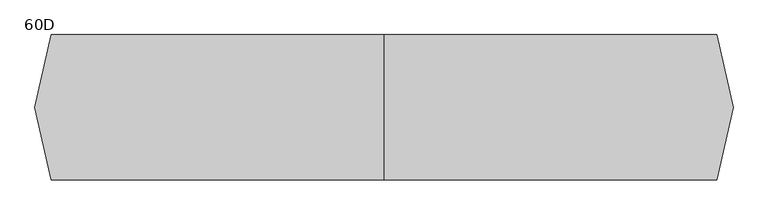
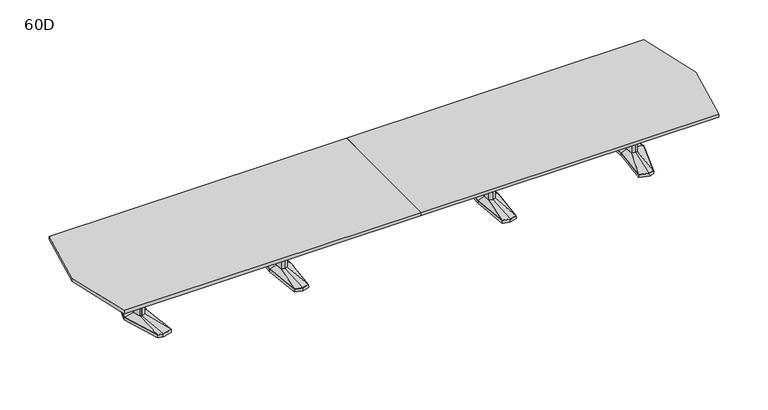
"""IFC4 building model written with IfcOpenShell, lengths in millimetres: furniture geometry, Coalesse_AM_Table_Conference_ETable2_Faceted_24ft_AluminiumBase : 60D."""

from ifc_helpers import new_model, si_unit, frame, origin, place, context, project, spatial, polyline, outline, extrude, faceted_brep, source, transform, mapped, element, save
from ifc_brep_helpers import plane_surface, spline_surface, advanced_brep


def furniture_60d_6ced5be0(model_context):
    return source(origin(), model_context, "Body", "SolidModel", [
        faceted_brep([(1137.9666209, -433.8053819, 38.1), (1219.2, -455.556576, 38.1), (1300.4333791, -433.8053819, 38.1), (1338.2564774, 0.0, 38.1), (1300.4333791, 433.8053819, 38.1), (1219.2, 455.556576, 38.1), (1137.9666209, 433.8053819, 38.1), (1100.1435226, 0.0, 38.1), (1136.4817205, -435.0512063, 3.175), (1098.55, 0.0, 3.175), (1136.4817205, 435.0512063, 3.175), (1219.2, 457.2, 3.175), (1301.9182795, 435.0512063, 3.175), (1339.85, 0.0, 3.175), (1301.9182795, -435.0512063, 3.175), (1219.2, -457.2, 3.175), (1219.2, 429.2617927, 3.175), (1141.2323194, 408.3850278, 3.175), (1144.4980179, 382.9646737, 3.175), (1219.2, 402.9670094, 3.175), (1293.9019821, 382.9646737, 3.175), (1297.1676806, 408.3850278, 3.175), (1219.2, -429.2617927, 3.175), (1297.1676806, -408.3850278, 3.175), (1293.9019821, -382.9646737, 3.175), (1219.2, -402.9670094, 3.175), (1144.4980179, -382.9646737, 3.175), (1141.2323194, -408.3850278, 3.175), (1147.3425738, 114.6326257, 3.175), (1136.6573924, 0.0, 3.175), (1147.3425738, -114.6326257, 3.175), (1219.2, -133.8761372, 3.175), (1291.0574262, -114.6326257, 3.175), (1301.7426076, 0.0, 3.175), (1291.0574262, 114.6326257, 3.175), (1219.2, 133.8761372, 3.175), (1219.2, 429.2617927, 0.0), (1297.1676806, 408.3850278, 0.0), (1293.9019821, 382.9646737, 0.0), (1219.2, 402.9670094, 0.0), (1144.4980179, 382.9646737, 0.0), (1141.2323194, 408.3850278, 0.0), (1219.2, -429.2617927, 0.0), (1141.2323194, -408.3850278, 0.0), (1144.4980179, -382.9646737, 0.0), (1219.2, -402.9670094, 0.0), (1293.9019821, -382.9646737, 0.0), (1297.1676806, -408.3850278, 0.0), (1147.3425738, 114.6326257, 0.0), (1219.2, 133.8761372, 0.0), (1291.0574262, 114.6326257, 0.0), (1301.7426076, 0.0, 0.0), (1291.0574262, -114.6326257, 0.0), (1219.2, -133.8761372, 0.0), (1147.3425738, -114.6326257, 0.0), (1136.6573924, 0.0, 0.0)], [[[0, 1, 2, 3, 4, 5, 6, 7]], [[8, 9, 10, 11, 12, 13, 14, 15], [16, 17, 18, 19, 20, 21], [22, 23, 24, 25, 26, 27], [28, 29, 30, 31, 32, 33, 34, 35]], [[1, 0, 8, 15]], [[2, 1, 15, 14]], [[3, 2, 14, 13]], [[4, 3, 13, 12]], [[5, 4, 12, 11]], [[6, 5, 11, 10]], [[7, 6, 10, 9]], [[0, 7, 9, 8]], [[36, 37, 38, 39, 40, 41]], [[42, 43, 44, 45, 46, 47]], [[48, 49, 50, 51, 52, 53, 54, 55]], [[36, 41, 17, 16]], [[41, 40, 18, 17]], [[40, 39, 19, 18]], [[39, 38, 20, 19]], [[38, 37, 21, 20]], [[37, 36, 16, 21]], [[42, 47, 23, 22]], [[47, 46, 24, 23]], [[46, 45, 25, 24]], [[45, 44, 26, 25]], [[44, 43, 27, 26]], [[43, 42, 22, 27]], [[48, 55, 29, 28]], [[55, 54, 30, 29]], [[54, 53, 31, 30]], [[53, 52, 32, 31]], [[52, 51, 33, 32]], [[51, 50, 34, 33]], [[50, 49, 35, 34]], [[49, 48, 28, 35]]]),
        faceted_brep([(1182.8167166, 84.6900825, 698.5), (1174.9225513, 0.0, 698.5), (1182.8167166, -84.6900825, 698.5), (1219.2, -94.4335728, 698.5), (1255.5832834, -84.6900825, 698.5), (1263.4774487, 0.0, 698.5), (1255.5832834, 84.6900825, 698.5), (1219.2, 94.4335728, 698.5), (1182.8167166, 84.6900825, 63.5), (1219.2, 94.4335728, 63.5), (1255.5832834, 84.6900825, 63.5), (1263.4774487, 0.0, 63.5), (1255.5832834, -84.6900825, 63.5), (1219.2, -94.4335728, 63.5), (1182.8167166, -84.6900825, 63.5), (1174.9225513, 0.0, 63.5)], [[[0, 1, 2, 3, 4, 5, 6, 7]], [[8, 9, 10, 11, 12, 13, 14, 15]], [[1, 0, 8, 15]], [[2, 1, 15, 14]], [[3, 2, 14, 13]], [[4, 3, 13, 12]], [[5, 4, 12, 11]], [[6, 5, 11, 10]], [[7, 6, 10, 9]], [[0, 7, 9, 8]]]),
        advanced_brep(
        [(1182.8167166, 84.6900825, 63.5), (1174.9225513, 0.0, 63.5), (1182.8167166, -84.6900825, 63.5), (1219.2, -94.4335728, 63.5), (1255.5832834, -84.6900825, 63.5), (1263.4774487, 0.0, 63.5), (1255.5832834, 84.6900825, 63.5), (1219.2, 94.4335728, 63.5), (1137.9666209, 433.8053819, 38.1), (1219.2, 455.556576, 38.1), (1300.4333791, 433.8053819, 38.1), (1338.2564774, 0.0, 38.1), (1300.4333791, -433.8053819, 38.1), (1219.2, -455.556576, 38.1), (1137.9666209, -433.8053819, 38.1), (1100.1435226, 0.0, 38.1)],
        [
            (0, 1),
            (1, 2),
            (2, 3),
            (3, 4),
            (4, 5),
            (5, 6),
            (6, 7),
            (7, 0),
            (8, 9),
            (9, 10),
            (10, 11),
            (11, 12),
            (12, 13),
            (13, 14),
            (14, 15),
            (15, 8),
            (15, 1),
            (0, 8),
            (14, 2),
            (13, 3),
            (12, 4),
            (11, 5),
            (10, 6),
            (9, 7),
        ],
        [
            plane_surface(frame((1219.2, 0.0, 63.5), z_axis=(0.0, 0.0, 1.0000000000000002), x_axis=(-0.9659615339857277, -0.25868574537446, 0.0))),
            plane_surface(frame((1219.2, 0.0, 38.1), z_axis=(0.0, 0.0, -1.0000000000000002), x_axis=(-0.9659615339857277, -0.25868574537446, 0.0))),
            spline_surface(1, 1, [[(1137.9666209, 433.8053819, 38.1), (1182.8167166, 84.6900825, 63.5)], [(1100.1435226, 0.0, 38.1), (1174.9225513, 0.0, 63.5)]], [2, 2], [2, 2], [0.0, 1.0], [0.0, 1.0]),
            spline_surface(1, 1, [[(1100.1435226, 0.0, 38.1), (1174.9225513, 0.0, 63.5)], [(1137.9666209, -433.8053819, 38.1), (1182.8167166, -84.6900825, 63.5)]], [2, 2], [2, 2], [0.0, 1.0], [0.0, 1.0]),
            spline_surface(1, 1, [[(1137.9666209, -433.8053819, 38.1), (1182.8167166, -84.6900825, 63.5)], [(1219.2, -455.556576, 38.1), (1219.2, -94.4335728, 63.5)]], [2, 2], [2, 2], [0.0, 1.0], [0.0, 1.0]),
            spline_surface(1, 1, [[(1219.2, -455.556576, 38.1), (1219.2, -94.4335728, 63.5)], [(1300.4333791, -433.8053819, 38.1), (1255.5832834, -84.6900825, 63.5)]], [2, 2], [2, 2], [0.0, 1.0], [0.0, 1.0]),
            spline_surface(1, 1, [[(1300.4333791, -433.8053819, 38.1), (1255.5832834, -84.6900825, 63.5)], [(1338.2564774, 0.0, 38.1), (1263.4774487, 0.0, 63.5)]], [2, 2], [2, 2], [0.0, 1.0], [0.0, 1.0]),
            spline_surface(1, 1, [[(1338.2564774, 0.0, 38.1), (1263.4774487, 0.0, 63.5)], [(1300.4333791, 433.8053819, 38.1), (1255.5832834, 84.6900825, 63.5)]], [2, 2], [2, 2], [0.0, 1.0], [0.0, 1.0]),
            spline_surface(1, 1, [[(1300.4333791, 433.8053819, 38.1), (1255.5832834, 84.6900825, 63.5)], [(1219.2, 455.556576, 38.1), (1219.2, 94.4335728, 63.5)]], [2, 2], [2, 2], [0.0, 1.0], [0.0, 1.0]),
            spline_surface(1, 1, [[(1219.2, 455.556576, 38.1), (1219.2, 94.4335728, 63.5)], [(1137.9666209, 433.8053819, 38.1), (1182.8167166, 84.6900825, 63.5)]], [2, 2], [2, 2], [0.0, 1.0], [0.0, 1.0]),
        ],
        [
            (0, [[1, 2, 3, 4, 5, 6, 7, 8]]),
            (1, [[9, 10, 11, 12, 13, 14, 15, 16]]),
            (2, [[-16, 17, -1, 18]]),
            (3, [[-15, 19, -2, -17]]),
            (4, [[-14, 20, -3, -19]]),
            (5, [[-13, 21, -4, -20]]),
            (6, [[-12, 22, -5, -21]]),
            (7, [[-11, 23, -6, -22]]),
            (8, [[-10, 24, -7, -23]]),
            (9, [[-9, -18, -8, -24]]),
        ],
    ),
        faceted_brep([(-1300.4333791, -433.8053819, 38.1), (-1219.2, -455.556576, 38.1), (-1137.9666209, -433.8053819, 38.1), (-1100.1435226, 0.0, 38.1), (-1137.9666209, 433.8053819, 38.1), (-1219.2, 455.556576, 38.1), (-1300.4333791, 433.8053819, 38.1), (-1338.2564774, 0.0, 38.1), (-1301.9182795, -435.0512063, 3.175), (-1339.85, 0.0, 3.175), (-1301.9182795, 435.0512063, 3.175), (-1219.2, 457.2, 3.175), (-1136.4817205, 435.0512063, 3.175), (-1098.55, 0.0, 3.175), (-1136.4817205, -435.0512063, 3.175), (-1219.2, -457.2, 3.175), (-1219.2, 429.2617927, 3.175), (-1297.1676806, 408.3850278, 3.175), (-1293.9019821, 382.9646737, 3.175), (-1219.2, 402.9670094, 3.175), (-1144.4980179, 382.9646737, 3.175), (-1141.2323194, 408.3850278, 3.175), (-1219.2, -429.2617927, 3.175), (-1141.2323194, -408.3850278, 3.175), (-1144.4980179, -382.9646737, 3.175), (-1219.2, -402.9670094, 3.175), (-1293.9019821, -382.9646737, 3.175), (-1297.1676806, -408.3850278, 3.175), (-1291.0574262, 114.6326257, 3.175), (-1301.7426076, 0.0, 3.175), (-1291.0574262, -114.6326257, 3.175), (-1219.2, -133.8761372, 3.175), (-1147.3425738, -114.6326257, 3.175), (-1136.6573924, 0.0, 3.175), (-1147.3425738, 114.6326257, 3.175), (-1219.2, 133.8761372, 3.175), (-1219.2, 429.2617927, 0.0), (-1141.2323194, 408.3850278, 0.0), (-1144.4980179, 382.9646737, 0.0), (-1219.2, 402.9670094, 0.0), (-1293.9019821, 382.9646737, 0.0), (-1297.1676806, 408.3850278, 0.0), (-1219.2, -429.2617927, 0.0), (-1297.1676806, -408.3850278, 0.0), (-1293.9019821, -382.9646737, 0.0), (-1219.2, -402.9670094, 0.0), (-1144.4980179, -382.9646737, 0.0), (-1141.2323194, -408.3850278, 0.0), (-1291.0574262, 114.6326257, 0.0), (-1219.2, 133.8761372, 0.0), (-1147.3425738, 114.6326257, 0.0), (-1136.6573924, 0.0, 0.0), (-1147.3425738, -114.6326257, 0.0), (-1219.2, -133.8761372, 0.0), (-1291.0574262, -114.6326257, 0.0), (-1301.7426076, 0.0, 0.0)], [[[0, 1, 2, 3, 4, 5, 6, 7]], [[8, 9, 10, 11, 12, 13, 14, 15], [16, 17, 18, 19, 20, 21], [22, 23, 24, 25, 26, 27], [28, 29, 30, 31, 32, 33, 34, 35]], [[1, 0, 8, 15]], [[2, 1, 15, 14]], [[3, 2, 14, 13]], [[4, 3, 13, 12]], [[5, 4, 12, 11]], [[6, 5, 11, 10]], [[7, 6, 10, 9]], [[0, 7, 9, 8]], [[36, 37, 38, 39, 40, 41]], [[42, 43, 44, 45, 46, 47]], [[48, 49, 50, 51, 52, 53, 54, 55]], [[36, 41, 17, 16]], [[41, 40, 18, 17]], [[40, 39, 19, 18]], [[39, 38, 20, 19]], [[38, 37, 21, 20]], [[37, 36, 16, 21]], [[42, 47, 23, 22]], [[47, 46, 24, 23]], [[46, 45, 25, 24]], [[45, 44, 26, 25]], [[44, 43, 27, 26]], [[43, 42, 22, 27]], [[48, 55, 29, 28]], [[55, 54, 30, 29]], [[54, 53, 31, 30]], [[53, 52, 32, 31]], [[52, 51, 33, 32]], [[51, 50, 34, 33]], [[50, 49, 35, 34]], [[49, 48, 28, 35]]]),
        faceted_brep([(-1255.5832834, 84.6900825, 698.5), (-1263.4774487, 0.0, 698.5), (-1255.5832834, -84.6900825, 698.5), (-1219.2, -94.4335728, 698.5), (-1182.8167166, -84.6900825, 698.5), (-1174.9225513, 0.0, 698.5), (-1182.8167166, 84.6900825, 698.5), (-1219.2, 94.4335728, 698.5), (-1255.5832834, 84.6900825, 63.5), (-1219.2, 94.4335728, 63.5), (-1182.8167166, 84.6900825, 63.5), (-1174.9225513, 0.0, 63.5), (-1182.8167166, -84.6900825, 63.5), (-1219.2, -94.4335728, 63.5), (-1255.5832834, -84.6900825, 63.5), (-1263.4774487, 0.0, 63.5)], [[[0, 1, 2, 3, 4, 5, 6, 7]], [[8, 9, 10, 11, 12, 13, 14, 15]], [[1, 0, 8, 15]], [[2, 1, 15, 14]], [[3, 2, 14, 13]], [[4, 3, 13, 12]], [[5, 4, 12, 11]], [[6, 5, 11, 10]], [[7, 6, 10, 9]], [[0, 7, 9, 8]]]),
        advanced_brep(
        [(-1255.5832834, 84.6900825, 63.5), (-1263.4774487, 0.0, 63.5), (-1255.5832834, -84.6900825, 63.5), (-1219.2, -94.4335728, 63.5), (-1182.8167166, -84.6900825, 63.5), (-1174.9225513, 0.0, 63.5), (-1182.8167166, 84.6900825, 63.5), (-1219.2, 94.4335728, 63.5), (-1300.4333791, 433.8053819, 38.1), (-1219.2, 455.556576, 38.1), (-1137.9666209, 433.8053819, 38.1), (-1100.1435226, 0.0, 38.1), (-1137.9666209, -433.8053819, 38.1), (-1219.2, -455.556576, 38.1), (-1300.4333791, -433.8053819, 38.1), (-1338.2564774, 0.0, 38.1)],
        [
            (0, 1),
            (1, 2),
            (2, 3),
            (3, 4),
            (4, 5),
            (5, 6),
            (6, 7),
            (7, 0),
            (8, 9),
            (9, 10),
            (10, 11),
            (11, 12),
            (12, 13),
            (13, 14),
            (14, 15),
            (15, 8),
            (15, 1),
            (0, 8),
            (14, 2),
            (13, 3),
            (12, 4),
            (11, 5),
            (10, 6),
            (9, 7),
        ],
        [
            plane_surface(frame((-1219.2, 0.0, 63.5), z_axis=(0.0, 0.0, 1.0000000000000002), x_axis=(-0.9659615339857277, -0.25868574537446, 0.0))),
            plane_surface(frame((-1219.2, 0.0, 38.1), z_axis=(0.0, 0.0, -1.0000000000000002), x_axis=(-0.9659615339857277, -0.25868574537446, 0.0))),
            spline_surface(1, 1, [[(-1300.4333791, 433.8053819, 38.1), (-1255.5832834, 84.6900825, 63.5)], [(-1338.2564774, 0.0, 38.1), (-1263.4774487, 0.0, 63.5)]], [2, 2], [2, 2], [0.0, 1.0], [0.0, 1.0]),
            spline_surface(1, 1, [[(-1338.2564774, 0.0, 38.1), (-1263.4774487, 0.0, 63.5)], [(-1300.4333791, -433.8053819, 38.1), (-1255.5832834, -84.6900825, 63.5)]], [2, 2], [2, 2], [0.0, 1.0], [0.0, 1.0]),
            spline_surface(1, 1, [[(-1300.4333791, -433.8053819, 38.1), (-1255.5832834, -84.6900825, 63.5)], [(-1219.2, -455.556576, 38.1), (-1219.2, -94.4335728, 63.5)]], [2, 2], [2, 2], [0.0, 1.0], [0.0, 1.0]),
            spline_surface(1, 1, [[(-1219.2, -455.556576, 38.1), (-1219.2, -94.4335728, 63.5)], [(-1137.9666209, -433.8053819, 38.1), (-1182.8167166, -84.6900825, 63.5)]], [2, 2], [2, 2], [0.0, 1.0], [0.0, 1.0]),
            spline_surface(1, 1, [[(-1137.9666209, -433.8053819, 38.1), (-1182.8167166, -84.6900825, 63.5)], [(-1100.1435226, 0.0, 38.1), (-1174.9225513, 0.0, 63.5)]], [2, 2], [2, 2], [0.0, 1.0], [0.0, 1.0]),
            spline_surface(1, 1, [[(-1100.1435226, 0.0, 38.1), (-1174.9225513, 0.0, 63.5)], [(-1137.9666209, 433.8053819, 38.1), (-1182.8167166, 84.6900825, 63.5)]], [2, 2], [2, 2], [0.0, 1.0], [0.0, 1.0]),
            spline_surface(1, 1, [[(-1137.9666209, 433.8053819, 38.1), (-1182.8167166, 84.6900825, 63.5)], [(-1219.2, 455.556576, 38.1), (-1219.2, 94.4335728, 63.5)]], [2, 2], [2, 2], [0.0, 1.0], [0.0, 1.0]),
            spline_surface(1, 1, [[(-1219.2, 455.556576, 38.1), (-1219.2, 94.4335728, 63.5)], [(-1300.4333791, 433.8053819, 38.1), (-1255.5832834, 84.6900825, 63.5)]], [2, 2], [2, 2], [0.0, 1.0], [0.0, 1.0]),
        ],
        [
            (0, [[1, 2, 3, 4, 5, 6, 7, 8]]),
            (1, [[9, 10, 11, 12, 13, 14, 15, 16]]),
            (2, [[-16, 17, -1, 18]]),
            (3, [[-15, 19, -2, -17]]),
            (4, [[-14, 20, -3, -19]]),
            (5, [[-13, 21, -4, -20]]),
            (6, [[-12, 22, -5, -21]]),
            (7, [[-11, 23, -6, -22]]),
            (8, [[-10, 24, -7, -23]]),
            (9, [[-9, -18, -8, -24]]),
        ],
    ),
        faceted_brep([(2852.8994335, 455.5848221, 38.1), (2743.3218777, 426.2263816, 38.1), (2784.4851217, 0.0, 38.1), (2743.3218777, -426.2263816, 38.1), (2852.8994335, -455.5848221, 38.1), (2909.0257896, -440.5478297, 38.1), (3046.3371769, 0.0, 38.1), (2909.0257896, 440.5478297, 38.1), (2852.8994254, 457.2283104, 3.175), (2910.2811972, 441.8549756, 3.175), (3048.0, 0.0, 3.175), (2910.2811972, -441.8549756, 3.175), (2852.8994254, -457.2283104, 3.175), (2741.6125, -427.4118891, 3.175), (2782.8902356, 0.0, 3.175), (2741.6125, 427.4118891, 3.175), (2856.488865, 428.3273875, 3.175), (2751.4405728, 402.1057253, 3.175), (2759.559268, 377.985069, 3.175), (2860.0782966, 401.0699529, 3.175), (2910.6379225, 387.524361, 3.175), (2909.8318561, 414.0360954, 3.175), (2856.488865, -428.3273875, 3.175), (2909.8318561, -414.0360954, 3.175), (2910.6379225, -387.524361, 3.175), (2860.0782966, -401.0699529, 3.175), (2759.559268, -377.985069, 3.175), (2751.4405728, -402.1057253, 3.175), (2983.0841121, 0.0, 3.175), (2950.8147111, 120.4193755, 3.175), (2902.1674722, 133.471665, 3.175), (2822.2868026, 119.4176561, 3.175), (2811.1555966, 0.0, 3.175), (2822.2868026, -119.4176561, 3.175), (2902.1674722, -133.471665, 3.175), (2950.8147111, -120.4193755, 3.175), (2856.488865, 428.3273875, 0.0), (2909.8318561, 414.0360954, 0.0), (2910.6379225, 387.524361, 0.0), (2860.0782966, 401.0699529, 0.0), (2759.559268, 377.985069, 0.0), (2751.4405728, 402.1057253, 0.0), (2856.488865, -428.3273875, 0.0), (2751.4405728, -402.1057253, 0.0), (2759.559268, -377.985069, 0.0), (2860.0782966, -401.0699529, 0.0), (2910.6379225, -387.524361, 0.0), (2909.8318561, -414.0360954, 0.0), (2983.0841121, 0.0, 0.0), (2950.8147111, -120.4193755, 0.0), (2902.1674722, -133.471665, 0.0), (2822.2868026, -119.4176561, 0.0), (2811.1555966, 0.0, 0.0), (2822.2868026, 119.4176561, 0.0), (2902.1674722, 133.471665, 0.0), (2950.8147111, 120.4193755, 0.0)], [[[0, 1, 2, 3, 4, 5, 6, 7]], [[8, 9, 10, 11, 12, 13, 14, 15], [16, 17, 18, 19, 20, 21], [22, 23, 24, 25, 26, 27], [28, 29, 30, 31, 32, 33, 34, 35]], [[7, 9, 8, 0]], [[6, 10, 9, 7]], [[5, 11, 10, 6]], [[4, 12, 11, 5]], [[3, 13, 12, 4]], [[2, 14, 13, 3]], [[1, 15, 14, 2]], [[0, 8, 15, 1]], [[36, 37, 38, 39, 40, 41]], [[42, 43, 44, 45, 46, 47]], [[48, 49, 50, 51, 52, 53, 54, 55]], [[36, 16, 21, 37]], [[37, 21, 20, 38]], [[38, 20, 19, 39]], [[39, 19, 18, 40]], [[40, 18, 17, 41]], [[41, 17, 16, 36]], [[42, 22, 27, 43]], [[43, 27, 26, 44]], [[44, 26, 25, 45]], [[45, 25, 24, 46]], [[46, 24, 23, 47]], [[47, 23, 22, 42]], [[48, 28, 35, 49]], [[49, 35, 34, 50]], [[50, 34, 33, 51]], [[51, 33, 32, 52]], [[52, 32, 31, 53]], [[53, 31, 30, 54]], [[54, 30, 29, 55]], [[55, 29, 28, 48]]]),
        faceted_brep([(2943.6398336, 0.0, 698.5), (2919.7046046, 89.3188359, 698.5), (2902.8512484, 93.8406728, 698.5), (2900.4514011, 94.4845635, 698.5), (2857.523896, 86.9320037, 698.5), (2849.4207556, 0.0, 698.5), (2857.523896, -86.9320037, 698.5), (2900.4514011, -94.4845635, 698.5), (2902.8512484, -93.8406728, 698.5), (2919.7046046, -89.3188359, 698.5), (2943.6398336, 0.0, 63.5), (2919.7046046, -89.3188359, 63.5), (2902.8512484, -93.8406728, 63.5), (2900.4514011, -94.4845635, 63.5), (2857.523896, -86.9320037, 63.5), (2849.4207556, 0.0, 63.5), (2857.523896, 86.9320037, 63.5), (2900.4514011, 94.4845635, 63.5), (2902.8512484, 93.8406728, 63.5), (2919.7046046, 89.3188359, 63.5)], [[[0, 1, 2, 3, 4, 5, 6, 7, 8, 9]], [[10, 11, 12, 13, 14, 15, 16, 17, 18, 19]], [[9, 11, 10, 0]], [[8, 12, 11, 9]], [[7, 13, 12, 8]], [[6, 14, 13, 7]], [[5, 15, 14, 6]], [[4, 16, 15, 5]], [[3, 17, 16, 4]], [[2, 18, 17, 3]], [[1, 19, 18, 2]], [[0, 10, 19, 1]]]),
        advanced_brep(
        [(2900.4514011, 94.4845635, 63.5), (2857.523896, 86.9320037, 63.5), (2849.4207556, 0.0, 63.5), (2857.523896, -86.9320037, 63.5), (2900.4514011, -94.4845635, 63.5), (2919.7046046, -89.3188359, 63.5), (2943.6398336, 0.0, 63.5), (2919.7046046, 89.3188359, 63.5), (2852.8994335, 455.5848221, 38.1), (2909.0257896, 440.5478297, 38.1), (3046.3371769, 0.0, 38.1), (2909.0257896, -440.5478297, 38.1), (2852.8994335, -455.5848221, 38.1), (2743.3218777, -426.2263816, 38.1), (2784.4851217, 0.0, 38.1), (2743.3218777, 426.2263816, 38.1)],
        [
            (0, 1),
            (1, 2),
            (2, 3),
            (3, 4),
            (4, 5),
            (5, 6),
            (6, 7),
            (7, 0),
            (8, 9),
            (9, 10),
            (10, 11),
            (11, 12),
            (12, 13),
            (13, 14),
            (14, 15),
            (15, 8),
            (8, 0),
            (7, 9),
            (6, 10),
            (5, 11),
            (4, 12),
            (3, 13),
            (2, 14),
            (1, 15),
        ],
        [
            plane_surface(frame((2893.5525491, 0.0, 63.5), z_axis=(0.0, 0.0, 1.0), x_axis=(-0.25884244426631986, -0.9659195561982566, 0.0))),
            plane_surface(frame((2855.1645625, 0.0, 38.1), z_axis=(0.0, 0.0, -1.0), x_axis=(-0.25884244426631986, -0.9659195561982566, 0.0))),
            spline_surface(1, 1, [[(2852.8994335, 455.5848221, 38.1), (2909.0257896, 440.5478297, 38.1)], [(2900.4514011, 94.4845635, 63.5), (2919.7046046, 89.3188359, 63.5)]], [2, 2], [2, 2], [0.0, 1.0], [0.0, 1.0]),
            spline_surface(1, 1, [[(2909.0257896, 440.5478297, 38.1), (3046.3371769, 0.0, 38.1)], [(2919.7046046, 89.3188359, 63.5), (2943.6398336, 0.0, 63.5)]], [2, 2], [2, 2], [0.0, 1.0], [0.0, 1.0]),
            spline_surface(1, 1, [[(3046.3371769, 0.0, 38.1), (2909.0257896, -440.5478297, 38.1)], [(2943.6398336, 0.0, 63.5), (2919.7046046, -89.3188359, 63.5)]], [2, 2], [2, 2], [0.0, 1.0], [0.0, 1.0]),
            spline_surface(1, 1, [[(2909.0257896, -440.5478297, 38.1), (2852.8994335, -455.5848221, 38.1)], [(2919.7046046, -89.3188359, 63.5), (2900.4514011, -94.4845635, 63.5)]], [2, 2], [2, 2], [0.0, 1.0], [0.0, 1.0]),
            spline_surface(1, 1, [[(2852.8994335, -455.5848221, 38.1), (2743.3218777, -426.2263816, 38.1)], [(2900.4514011, -94.4845635, 63.5), (2857.523896, -86.9320037, 63.5)]], [2, 2], [2, 2], [0.0, 1.0], [0.0, 1.0]),
            spline_surface(1, 1, [[(2743.3218777, -426.2263816, 38.1), (2784.4851217, 0.0, 38.1)], [(2857.523896, -86.9320037, 63.5), (2849.4207556, 0.0, 63.5)]], [2, 2], [2, 2], [0.0, 1.0], [0.0, 1.0]),
            spline_surface(1, 1, [[(2784.4851217, 0.0, 38.1), (2743.3218777, 426.2263816, 38.1)], [(2849.4207556, 0.0, 63.5), (2857.523896, 86.9320037, 63.5)]], [2, 2], [2, 2], [0.0, 1.0], [0.0, 1.0]),
            spline_surface(1, 1, [[(2743.3218777, 426.2263816, 38.1), (2852.8994335, 455.5848221, 38.1)], [(2857.523896, 86.9320037, 63.5), (2900.4514011, 94.4845635, 63.5)]], [2, 2], [2, 2], [0.0, 1.0], [0.0, 1.0]),
        ],
        [
            (0, [[1, 2, 3, 4, 5, 6, 7, 8]]),
            (1, [[9, 10, 11, 12, 13, 14, 15, 16]]),
            (2, [[17, -8, 18, -9]]),
            (3, [[-18, -7, 19, -10]]),
            (4, [[-19, -6, 20, -11]]),
            (5, [[-20, -5, 21, -12]]),
            (6, [[-21, -4, 22, -13]]),
            (7, [[-22, -3, 23, -14]]),
            (8, [[-23, -2, 24, -15]]),
            (9, [[-24, -1, -17, -16]]),
        ],
    ),
        faceted_brep([(-2852.8994335, 455.5848221, 38.1), (-2909.0257896, 440.5478297, 38.1), (-3046.3371769, 0.0, 38.1), (-2909.0257896, -440.5478297, 38.1), (-2852.8994335, -455.5848221, 38.1), (-2743.3218777, -426.2263816, 38.1), (-2784.4851217, 0.0, 38.1), (-2743.3218777, 426.2263816, 38.1), (-2852.8994254, 457.2283104, 3.175), (-2741.6125, 427.4118891, 3.175), (-2782.8902356, 0.0, 3.175), (-2741.6125, -427.4118891, 3.175), (-2852.8994254, -457.2283104, 3.175), (-2910.2811972, -441.8549756, 3.175), (-3048.0, 0.0, 3.175), (-2910.2811972, 441.8549756, 3.175), (-2856.488865, 428.3273875, 3.175), (-2909.8318561, 414.0360954, 3.175), (-2910.6379225, 387.524361, 3.175), (-2860.0782966, 401.0699529, 3.175), (-2759.559268, 377.985069, 3.175), (-2751.4405728, 402.1057253, 3.175), (-2856.488865, -428.3273875, 3.175), (-2751.4405728, -402.1057253, 3.175), (-2759.559268, -377.985069, 3.175), (-2860.0782966, -401.0699529, 3.175), (-2910.6379225, -387.524361, 3.175), (-2909.8318561, -414.0360954, 3.175), (-2983.0841121, 0.0, 3.175), (-2950.8147111, -120.4193755, 3.175), (-2902.1674722, -133.471665, 3.175), (-2822.2868026, -119.4176561, 3.175), (-2811.1555966, 0.0, 3.175), (-2822.2868026, 119.4176561, 3.175), (-2902.1674722, 133.471665, 3.175), (-2950.8147111, 120.4193755, 3.175), (-2856.488865, 428.3273875, 0.0), (-2751.4405728, 402.1057253, 0.0), (-2759.559268, 377.985069, 0.0), (-2860.0782966, 401.0699529, 0.0), (-2910.6379225, 387.524361, 0.0), (-2909.8318561, 414.0360954, 0.0), (-2856.488865, -428.3273875, 0.0), (-2909.8318561, -414.0360954, 0.0), (-2910.6379225, -387.524361, 0.0), (-2860.0782966, -401.0699529, 0.0), (-2759.559268, -377.985069, 0.0), (-2751.4405728, -402.1057253, 0.0), (-2983.0841121, 0.0, 0.0), (-2950.8147111, 120.4193755, 0.0), (-2902.1674722, 133.471665, 0.0), (-2822.2868026, 119.4176561, 0.0), (-2811.1555966, 0.0, 0.0), (-2822.2868026, -119.4176561, 0.0), (-2902.1674722, -133.471665, 0.0), (-2950.8147111, -120.4193755, 0.0)], [[[0, 1, 2, 3, 4, 5, 6, 7]], [[8, 9, 10, 11, 12, 13, 14, 15], [16, 17, 18, 19, 20, 21], [22, 23, 24, 25, 26, 27], [28, 29, 30, 31, 32, 33, 34, 35]], [[1, 0, 8, 15]], [[2, 1, 15, 14]], [[3, 2, 14, 13]], [[4, 3, 13, 12]], [[5, 4, 12, 11]], [[6, 5, 11, 10]], [[7, 6, 10, 9]], [[0, 7, 9, 8]], [[36, 37, 38, 39, 40, 41]], [[42, 43, 44, 45, 46, 47]], [[48, 49, 50, 51, 52, 53, 54, 55]], [[36, 41, 17, 16]], [[41, 40, 18, 17]], [[40, 39, 19, 18]], [[39, 38, 20, 19]], [[38, 37, 21, 20]], [[37, 36, 16, 21]], [[42, 47, 23, 22]], [[47, 46, 24, 23]], [[46, 45, 25, 24]], [[45, 44, 26, 25]], [[44, 43, 27, 26]], [[43, 42, 22, 27]], [[48, 55, 29, 28]], [[55, 54, 30, 29]], [[54, 53, 31, 30]], [[53, 52, 32, 31]], [[52, 51, 33, 32]], [[51, 50, 34, 33]], [[50, 49, 35, 34]], [[49, 48, 28, 35]]]),
        faceted_brep([(-2943.6398336, 0.0, 698.5), (-2919.7046046, -89.3188359, 698.5), (-2902.8512484, -93.8406728, 698.5), (-2900.4514011, -94.4845635, 698.5), (-2857.523896, -86.9320037, 698.5), (-2849.4207556, 0.0, 698.5), (-2857.523896, 86.9320037, 698.5), (-2900.4514011, 94.4845635, 698.5), (-2902.8512484, 93.8406728, 698.5), (-2919.7046046, 89.3188359, 698.5), (-2943.6398336, 0.0, 63.5), (-2919.7046046, 89.3188359, 63.5), (-2902.8512484, 93.8406728, 63.5), (-2900.4514011, 94.4845635, 63.5), (-2857.523896, 86.9320037, 63.5), (-2849.4207556, 0.0, 63.5), (-2857.523896, -86.9320037, 63.5), (-2900.4514011, -94.4845635, 63.5), (-2902.8512484, -93.8406728, 63.5), (-2919.7046046, -89.3188359, 63.5)], [[[0, 1, 2, 3, 4, 5, 6, 7, 8, 9]], [[10, 11, 12, 13, 14, 15, 16, 17, 18, 19]], [[1, 0, 10, 19]], [[2, 1, 19, 18]], [[3, 2, 18, 17]], [[4, 3, 17, 16]], [[5, 4, 16, 15]], [[6, 5, 15, 14]], [[7, 6, 14, 13]], [[8, 7, 13, 12]], [[9, 8, 12, 11]], [[0, 9, 11, 10]]]),
        advanced_brep(
        [(-2900.4514011, 94.4845635, 63.5), (-2919.7046046, 89.3188359, 63.5), (-2943.6398336, 0.0, 63.5), (-2919.7046046, -89.3188359, 63.5), (-2900.4514011, -94.4845635, 63.5), (-2857.523896, -86.9320037, 63.5), (-2849.4207556, 0.0, 63.5), (-2857.523896, 86.9320037, 63.5), (-2852.8994335, 455.5848221, 38.1), (-2743.3218777, 426.2263816, 38.1), (-2784.4851217, 0.0, 38.1), (-2743.3218777, -426.2263816, 38.1), (-2852.8994335, -455.5848221, 38.1), (-2909.0257896, -440.5478297, 38.1), (-3046.3371769, 0.0, 38.1), (-2909.0257896, 440.5478297, 38.1)],
        [
            (0, 1),
            (1, 2),
            (2, 3),
            (3, 4),
            (4, 5),
            (5, 6),
            (6, 7),
            (7, 0),
            (8, 9),
            (9, 10),
            (10, 11),
            (11, 12),
            (12, 13),
            (13, 14),
            (14, 15),
            (15, 8),
            (15, 1),
            (0, 8),
            (14, 2),
            (13, 3),
            (12, 4),
            (11, 5),
            (10, 6),
            (9, 7),
        ],
        [
            plane_surface(frame((-2893.5525491, 0.0, 63.5), z_axis=(0.0, 0.0, 1.0), x_axis=(0.25884244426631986, -0.9659195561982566, 0.0))),
            plane_surface(frame((-2855.1645625, 0.0, 38.1), z_axis=(0.0, 0.0, -1.0), x_axis=(0.25884244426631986, -0.9659195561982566, 0.0))),
            spline_surface(1, 1, [[(-2852.8994335, 455.5848221, 38.1), (-2900.4514011, 94.4845635, 63.5)], [(-2909.0257896, 440.5478297, 38.1), (-2919.7046046, 89.3188359, 63.5)]], [2, 2], [2, 2], [0.0, 1.0], [0.0, 1.0]),
            spline_surface(1, 1, [[(-2909.0257896, 440.5478297, 38.1), (-2919.7046046, 89.3188359, 63.5)], [(-3046.3371769, 0.0, 38.1), (-2943.6398336, 0.0, 63.5)]], [2, 2], [2, 2], [0.0, 1.0], [0.0, 1.0]),
            spline_surface(1, 1, [[(-3046.3371769, 0.0, 38.1), (-2943.6398336, 0.0, 63.5)], [(-2909.0257896, -440.5478297, 38.1), (-2919.7046046, -89.3188359, 63.5)]], [2, 2], [2, 2], [0.0, 1.0], [0.0, 1.0]),
            spline_surface(1, 1, [[(-2909.0257896, -440.5478297, 38.1), (-2919.7046046, -89.3188359, 63.5)], [(-2852.8994335, -455.5848221, 38.1), (-2900.4514011, -94.4845635, 63.5)]], [2, 2], [2, 2], [0.0, 1.0], [0.0, 1.0]),
            spline_surface(1, 1, [[(-2852.8994335, -455.5848221, 38.1), (-2900.4514011, -94.4845635, 63.5)], [(-2743.3218777, -426.2263816, 38.1), (-2857.523896, -86.9320037, 63.5)]], [2, 2], [2, 2], [0.0, 1.0], [0.0, 1.0]),
            spline_surface(1, 1, [[(-2743.3218777, -426.2263816, 38.1), (-2857.523896, -86.9320037, 63.5)], [(-2784.4851217, 0.0, 38.1), (-2849.4207556, 0.0, 63.5)]], [2, 2], [2, 2], [0.0, 1.0], [0.0, 1.0]),
            spline_surface(1, 1, [[(-2784.4851217, 0.0, 38.1), (-2849.4207556, 0.0, 63.5)], [(-2743.3218777, 426.2263816, 38.1), (-2857.523896, 86.9320037, 63.5)]], [2, 2], [2, 2], [0.0, 1.0], [0.0, 1.0]),
            spline_surface(1, 1, [[(-2743.3218777, 426.2263816, 38.1), (-2857.523896, 86.9320037, 63.5)], [(-2852.8994335, 455.5848221, 38.1), (-2900.4514011, 94.4845635, 63.5)]], [2, 2], [2, 2], [0.0, 1.0], [0.0, 1.0]),
        ],
        [
            (0, [[1, 2, 3, 4, 5, 6, 7, 8]]),
            (1, [[9, 10, 11, 12, 13, 14, 15, 16]]),
            (2, [[-16, 17, -1, 18]]),
            (3, [[-15, 19, -2, -17]]),
            (4, [[-14, 20, -3, -19]]),
            (5, [[-13, 21, -4, -20]]),
            (6, [[-12, 22, -5, -21]]),
            (7, [[-11, 23, -6, -22]]),
            (8, [[-10, 24, -7, -23]]),
            (9, [[-9, -18, -8, -24]]),
        ],
    ),
        extrude(outline(polyline([(96.8375, 698.5), (103.1875, 698.5), (103.1875, 476.25), (-103.1875, 476.25), (-103.1875, 698.5), (-96.8375, 698.5), (-96.8375, 482.6), (96.8375, 482.6), (96.8375, 698.5)])), frame((1263.4774487, 0.0, 0.0), z_axis=(1.0, 0.0, 0.0), x_axis=(0.0, 1.0, 0.0)), (0.0, 0.0, 1.0), 1586.0850513),
        extrude(outline(polyline([(96.8375, 698.5), (103.1875, 698.5), (103.1875, 476.25), (-103.1875, 476.25), (-103.1875, 698.5), (-96.8375, 698.5), (-96.8375, 482.6), (96.8375, 482.6), (96.8375, 698.5)])), frame((-1174.9225513, 0.0, 0.0), z_axis=(1.0, 0.0, 0.0), x_axis=(0.0, 1.0, 0.0)), (0.0, 0.0, 1.0), 2349.8451026),
        extrude(outline(polyline([(3488.6677242, 762.0), (3657.6, 0.0), (3488.6677242, -762.0), (0.0, -762.0), (0.0, 87.9495918), (0.0, 762.0), (3488.6677242, 762.0)])), frame((0.0, 0.0, 698.5), z_axis=(0.0, 0.0, 1.0), x_axis=(1.0, 0.0, 0.0)), (0.0, 0.0, 1.0), 38.1),
        extrude(outline(polyline([(0.0, 113.3514361), (0.0, -762.0), (-3488.6677242, -762.0), (-3657.6, 0.0), (-3488.6677242, 762.0), (0.0, 762.0), (0.0, 113.3514361)])), frame((0.0, 0.0, 698.5), z_axis=(0.0, 0.0, 1.0), x_axis=(1.0, 0.0, 0.0)), (0.0, 0.0, 1.0), 38.1),
        extrude(outline(polyline([(96.8375, 698.5), (103.1875, 698.5), (103.1875, 476.25), (-103.1875, 476.25), (-103.1875, 698.5), (-96.8375, 698.5), (-96.8375, 482.6), (96.8375, 482.6), (96.8375, 698.5)])), frame((-2849.5625, 0.0, 0.0), z_axis=(1.0, 0.0, 0.0), x_axis=(0.0, 1.0, 0.0)), (0.0, 0.0, 1.0), 1586.0850513),
    ])


if __name__ == "__main__":
    model = new_model("IFC4")
    model_context = context("Model", 3, world=origin())
    ifc_project = project(units=[si_unit("LENGTHUNIT", "METRE", prefix="MILLI")], contexts=[model_context])
    site = spatial("IfcSite", under=ifc_project)
    building = spatial("IfcBuilding", under=site)
    placement = place(None, origin())
    furniture_60d_shape = furniture_60d_6ced5be0(model_context)
    element("IfcFurniture", 1, ObjectType="Coalesse_AM_Table_Conference_ETable2_Faceted_24ft_AluminiumBase : 60D", at=placement, inside=building, context=model_context, shape_type="MappedRepresentation", body=[
        mapped(furniture_60d_shape, transform((0.0, 0.0, 0.0), x_axis=(1.0, 0.0, 0.0), y_axis=(0.0, 1.0, 0.0), z_axis=(0.0, 0.0, 1.0))),
    ])
    save(model, "model.ifc")
